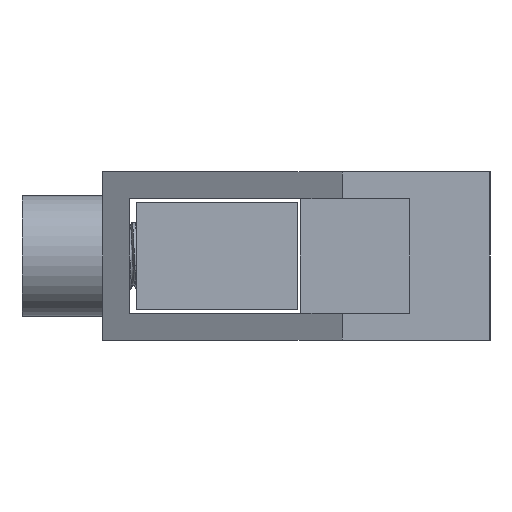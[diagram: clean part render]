
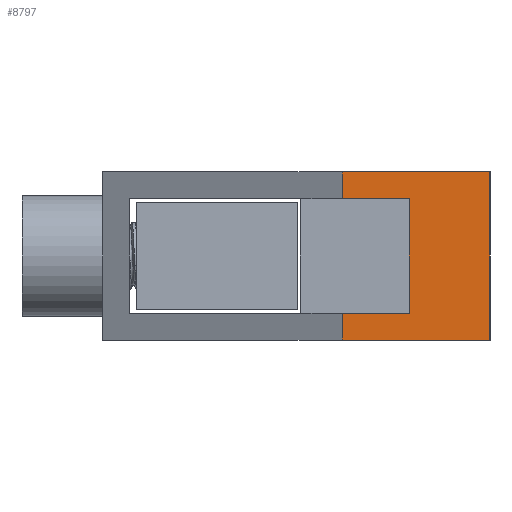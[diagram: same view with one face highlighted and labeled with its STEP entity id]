
A CAD part, left-side view. The second image highlights one B-rep face of the part: STEP entity #8797.
In plain terms, the highlighted planar face has unit normal (-1, 0, 0).
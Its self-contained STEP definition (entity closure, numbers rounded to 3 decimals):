
#69 = LINE ( 'NONE', #114, #8608 ) ;
#114 = CARTESIAN_POINT ( 'NONE',  ( -56., -28.8, 12.5 ) ) ;
#302 = CARTESIAN_POINT ( 'NONE',  ( -56., -28.8, 0. ) ) ;
#339 = VERTEX_POINT ( 'NONE', #9754 ) ;
#435 = EDGE_CURVE ( 'NONE', #1981, #339, #1691, .T. ) ;
#759 = LINE ( 'NONE', #14808, #12686 ) ;
#1547 = EDGE_CURVE ( 'NONE', #6811, #5556, #13498, .T. ) ;
#1661 = DIRECTION ( 'NONE',  ( 0., 0., 1. ) ) ;
#1691 = LINE ( 'NONE', #6695, #13251 ) ;
#1981 = VERTEX_POINT ( 'NONE', #2673 ) ;
#2673 = CARTESIAN_POINT ( 'NONE',  ( -56., -17.8, 12.5 ) ) ;
#2985 = VERTEX_POINT ( 'NONE', #3173 ) ;
#3173 = CARTESIAN_POINT ( 'NONE',  ( -56., -22.8, 2. ) ) ;
#3984 = EDGE_CURVE ( 'NONE', #339, #12270, #69, .T. ) ;
#4293 = VECTOR ( 'NONE', #13474, 1000. ) ;
#4856 = CARTESIAN_POINT ( 'NONE',  ( -56., -17.8, 2. ) ) ;
#4866 = DIRECTION ( 'NONE',  ( 1., 0., 0. ) ) ;
#5556 = VERTEX_POINT ( 'NONE', #6760 ) ;
#5568 = ORIENTED_EDGE ( 'NONE', *, *, #435, .F. ) ;
#5595 = ORIENTED_EDGE ( 'NONE', *, *, #14247, .T. ) ;
#5694 = DIRECTION ( 'NONE',  ( 0., -1., 0. ) ) ;
#5832 = LINE ( 'NONE', #12618, #9649 ) ;
#5925 = ORIENTED_EDGE ( 'NONE', *, *, #6391, .F. ) ;
#6166 = ORIENTED_EDGE ( 'NONE', *, *, #12710, .T. ) ;
#6364 = DIRECTION ( 'NONE',  ( 0., -1., 0. ) ) ;
#6391 = EDGE_CURVE ( 'NONE', #13672, #2985, #759, .T. ) ;
#6489 = CARTESIAN_POINT ( 'NONE',  ( -56., -11.8, 10.5 ) ) ;
#6695 = CARTESIAN_POINT ( 'NONE',  ( -56., -17.8, 12.5 ) ) ;
#6701 = CARTESIAN_POINT ( 'NONE',  ( -56., -17.8, 12.5 ) ) ;
#6760 = CARTESIAN_POINT ( 'NONE',  ( -56., -17.8, 10.5 ) ) ;
#6811 = VERTEX_POINT ( 'NONE', #7622 ) ;
#7345 = LINE ( 'NONE', #6701, #10417 ) ;
#7616 = DIRECTION ( 'NONE',  ( 0., 0., -1. ) ) ;
#7622 = CARTESIAN_POINT ( 'NONE',  ( -56., -22.8, 10.5 ) ) ;
#7968 = DIRECTION ( 'NONE',  ( 0., -1., 0. ) ) ;
#8224 = DIRECTION ( 'NONE',  ( 0., 0., -1. ) ) ;
#8599 = CARTESIAN_POINT ( 'NONE',  ( -56., -22.8, 2. ) ) ;
#8608 = VECTOR ( 'NONE', #8224, 1000. ) ;
#8797 = ADVANCED_FACE ( 'NONE', ( #10662 ), #9471, .F. ) ;
#8976 = ORIENTED_EDGE ( 'NONE', *, *, #3984, .F. ) ;
#9471 = PLANE ( 'NONE',  #13698 ) ;
#9589 = EDGE_CURVE ( 'NONE', #2985, #6811, #11521, .T. ) ;
#9649 = VECTOR ( 'NONE', #5694, 1000. ) ;
#9754 = CARTESIAN_POINT ( 'NONE',  ( -56., -28.8, 12.5 ) ) ;
#10417 = VECTOR ( 'NONE', #13594, 1000. ) ;
#10610 = EDGE_CURVE ( 'NONE', #1981, #5556, #7345, .T. ) ;
#10662 = FACE_OUTER_BOUND ( 'NONE', #14335, .T. ) ;
#10693 = CARTESIAN_POINT ( 'NONE',  ( -56., -17.8, 0. ) ) ;
#10877 = VECTOR ( 'NONE', #7616, 1000. ) ;
#11521 = LINE ( 'NONE', #8599, #14197 ) ;
#11575 = LINE ( 'NONE', #14469, #10877 ) ;
#11798 = CARTESIAN_POINT ( 'NONE',  ( -56., -17.8, 12.5 ) ) ;
#12051 = ORIENTED_EDGE ( 'NONE', *, *, #9589, .F. ) ;
#12252 = VERTEX_POINT ( 'NONE', #10693 ) ;
#12270 = VERTEX_POINT ( 'NONE', #302 ) ;
#12618 = CARTESIAN_POINT ( 'NONE',  ( -56., -17.8, 0. ) ) ;
#12686 = VECTOR ( 'NONE', #7968, 1000. ) ;
#12710 = EDGE_CURVE ( 'NONE', #12252, #12270, #5832, .T. ) ;
#12941 = DIRECTION ( 'NONE',  ( 0., 1., 0. ) ) ;
#13251 = VECTOR ( 'NONE', #6364, 1000. ) ;
#13474 = DIRECTION ( 'NONE',  ( 0., 1., 0. ) ) ;
#13498 = LINE ( 'NONE', #6489, #4293 ) ;
#13594 = DIRECTION ( 'NONE',  ( 0., 0., -1. ) ) ;
#13672 = VERTEX_POINT ( 'NONE', #4856 ) ;
#13698 = AXIS2_PLACEMENT_3D ( 'NONE', #11798, #4866, #12941 ) ;
#14167 = ORIENTED_EDGE ( 'NONE', *, *, #10610, .T. ) ;
#14197 = VECTOR ( 'NONE', #1661, 1000. ) ;
#14247 = EDGE_CURVE ( 'NONE', #13672, #12252, #11575, .T. ) ;
#14335 = EDGE_LOOP ( 'NONE', ( #12051, #5925, #5595, #6166, #8976, #5568, #14167, #14395 ) ) ;
#14395 = ORIENTED_EDGE ( 'NONE', *, *, #1547, .F. ) ;
#14469 = CARTESIAN_POINT ( 'NONE',  ( -56., -17.8, 12.5 ) ) ;
#14808 = CARTESIAN_POINT ( 'NONE',  ( -56., -11.8, 2. ) ) ;
